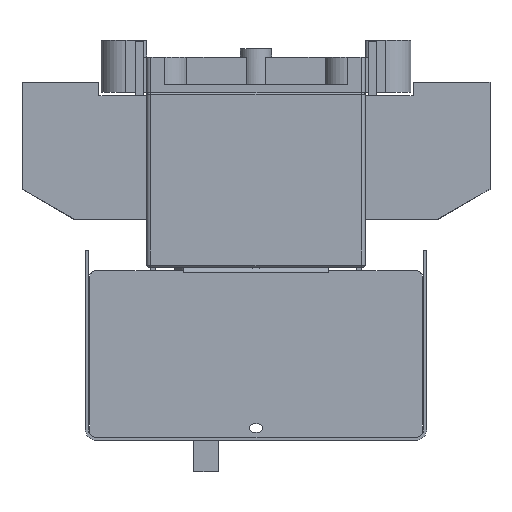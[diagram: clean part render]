
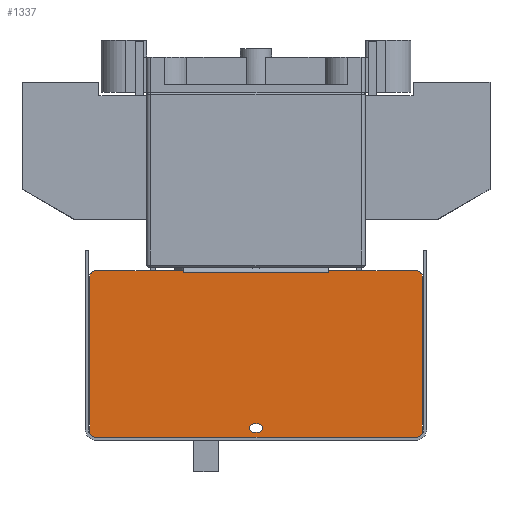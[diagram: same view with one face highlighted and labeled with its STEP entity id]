
A CAD part, left-side view. The second image highlights one B-rep face of the part: STEP entity #1337.
In plain terms, the highlighted planar face has unit normal (-1, 0, 0).
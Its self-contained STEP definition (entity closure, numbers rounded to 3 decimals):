
#170=FACE_BOUND('',#4713,.T.);
#171=FACE_BOUND('',#4714,.T.);
#1337=ADVANCED_FACE('',(#170,#171),#2371,.T.);
#2371=PLANE('',#25132);
#4713=EDGE_LOOP('',(#9675,#9676,#9677,#9678,#9679,#9680,#9681,#9682,#9683,
#9684,#9685,#9686,#9687,#9688));
#4714=EDGE_LOOP('',(#9689,#9690,#9691,#9692));
#5859=CIRCLE('',#25110,2.1);
#5861=CIRCLE('',#25114,2.1);
#5863=CIRCLE('',#25118,3.);
#5865=CIRCLE('',#25121,3.);
#5867=CIRCLE('',#25125,3.);
#5869=CIRCLE('',#25129,3.);
#9675=ORIENTED_EDGE('',*,*,#17131,.F.);
#9676=ORIENTED_EDGE('',*,*,#17132,.T.);
#9677=ORIENTED_EDGE('',*,*,#17133,.T.);
#9678=ORIENTED_EDGE('',*,*,#17134,.T.);
#9679=ORIENTED_EDGE('',*,*,#17135,.F.);
#9680=ORIENTED_EDGE('',*,*,#17123,.T.);
#9681=ORIENTED_EDGE('',*,*,#17128,.T.);
#9682=ORIENTED_EDGE('',*,*,#17111,.T.);
#9683=ORIENTED_EDGE('',*,*,#17114,.T.);
#9684=ORIENTED_EDGE('',*,*,#17089,.T.);
#9685=ORIENTED_EDGE('',*,*,#17117,.T.);
#9686=ORIENTED_EDGE('',*,*,#17120,.T.);
#9687=ORIENTED_EDGE('',*,*,#17122,.T.);
#9688=ORIENTED_EDGE('',*,*,#17097,.T.);
#9689=ORIENTED_EDGE('',*,*,#17101,.T.);
#9690=ORIENTED_EDGE('',*,*,#17105,.T.);
#9691=ORIENTED_EDGE('',*,*,#17108,.T.);
#9692=ORIENTED_EDGE('',*,*,#17130,.T.);
#13910=VERTEX_POINT('',#35117);
#13955=VERTEX_POINT('',#35214);
#14239=VERTEX_POINT('',#36305);
#14240=VERTEX_POINT('',#36307);
#14243=VERTEX_POINT('',#36314);
#14244=VERTEX_POINT('',#36316);
#14246=VERTEX_POINT('',#36322);
#14248=VERTEX_POINT('',#36328);
#14251=VERTEX_POINT('',#36335);
#14252=VERTEX_POINT('',#36337);
#14254=VERTEX_POINT('',#36346);
#14256=VERTEX_POINT('',#36352);
#14257=VERTEX_POINT('',#36359);
#14258=VERTEX_POINT('',#36360);
#14261=VERTEX_POINT('',#36374);
#14262=VERTEX_POINT('',#36376);
#14263=VERTEX_POINT('',#36378);
#14264=VERTEX_POINT('',#36380);
#17089=EDGE_CURVE('',#13910,#13955,#20105,.T.);
#17097=EDGE_CURVE('',#14240,#14239,#20112,.T.);
#17101=EDGE_CURVE('',#14244,#14243,#5859,.T.);
#17105=EDGE_CURVE('',#14243,#14246,#20118,.T.);
#17108=EDGE_CURVE('',#14246,#14248,#5861,.T.);
#17111=EDGE_CURVE('',#14252,#14251,#20122,.T.);
#17114=EDGE_CURVE('',#14251,#13910,#5863,.T.);
#17117=EDGE_CURVE('',#13955,#14254,#5865,.T.);
#17120=EDGE_CURVE('',#14254,#14256,#20127,.T.);
#17122=EDGE_CURVE('',#14256,#14240,#5867,.T.);
#17123=EDGE_CURVE('',#14257,#14258,#20128,.T.);
#17128=EDGE_CURVE('',#14258,#14252,#5869,.T.);
#17130=EDGE_CURVE('',#14248,#14244,#20133,.T.);
#17131=EDGE_CURVE('',#14261,#14239,#20134,.T.);
#17132=EDGE_CURVE('',#14261,#14262,#20135,.T.);
#17133=EDGE_CURVE('',#14262,#14263,#20136,.T.);
#17134=EDGE_CURVE('',#14263,#14264,#20137,.T.);
#17135=EDGE_CURVE('',#14257,#14264,#20138,.T.);
#20105=LINE('',#36288,#22745);
#20112=LINE('',#36306,#22752);
#20118=LINE('',#36323,#22758);
#20122=LINE('',#36336,#22762);
#20127=LINE('',#36353,#22767);
#20128=LINE('',#36358,#22768);
#20133=LINE('',#36371,#22773);
#20134=LINE('',#36373,#22774);
#20135=LINE('',#36375,#22775);
#20136=LINE('',#36377,#22776);
#20137=LINE('',#36379,#22777);
#20138=LINE('',#36381,#22778);
#22745=VECTOR('',#29465,1.);
#22752=VECTOR('',#29478,1.);
#22758=VECTOR('',#29492,1.);
#22762=VECTOR('',#29504,1.);
#22767=VECTOR('',#29523,1.);
#22768=VECTOR('',#29532,1.);
#22773=VECTOR('',#29545,1.);
#22774=VECTOR('',#29548,1.);
#22775=VECTOR('',#29549,1.);
#22776=VECTOR('',#29550,1.);
#22777=VECTOR('',#29551,1.);
#22778=VECTOR('',#29552,1.);
#25110=AXIS2_PLACEMENT_3D('',#36315,#29485,#29486);
#25114=AXIS2_PLACEMENT_3D('',#36329,#29498,#29499);
#25118=AXIS2_PLACEMENT_3D('',#36341,#29510,#29511);
#25121=AXIS2_PLACEMENT_3D('',#36347,#29517,#29518);
#25125=AXIS2_PLACEMENT_3D('',#36356,#29528,#29529);
#25129=AXIS2_PLACEMENT_3D('',#36368,#29540,#29541);
#25132=AXIS2_PLACEMENT_3D('',#36382,#29553,#29554);
#29465=DIRECTION('',(0.,-1.,0.));
#29478=DIRECTION('',(0.,1.,0.));
#29485=DIRECTION('',(1.,0.,0.));
#29486=DIRECTION('',(0.,1.,0.));
#29492=DIRECTION('',(0.,-1.,0.));
#29498=DIRECTION('',(1.,0.,0.));
#29499=DIRECTION('',(0.,1.,0.));
#29504=DIRECTION('',(0.,0.,-1.));
#29510=DIRECTION('',(-1.,0.,0.));
#29511=DIRECTION('',(0.,1.,0.));
#29517=DIRECTION('',(-1.,0.,0.));
#29518=DIRECTION('',(0.,1.,0.));
#29523=DIRECTION('',(0.,0.,1.));
#29528=DIRECTION('',(-1.,0.,0.));
#29529=DIRECTION('',(0.,1.,0.));
#29532=DIRECTION('',(0.,1.,0.));
#29540=DIRECTION('',(-1.,0.,0.));
#29541=DIRECTION('',(0.,1.,0.));
#29545=DIRECTION('',(0.,1.,0.));
#29548=DIRECTION('',(0.,0.,1.));
#29549=DIRECTION('',(0.,1.,0.));
#29550=DIRECTION('',(0.,1.,0.));
#29551=DIRECTION('',(0.,1.,0.));
#29552=DIRECTION('',(0.,0.,-1.));
#29553=DIRECTION('',(-1.,0.,0.));
#29554=DIRECTION('',(0.,-1.,0.));
#35117=CARTESIAN_POINT('',(-189.3,77.,-165.8));
#35214=CARTESIAN_POINT('',(-189.3,-77.,-165.8));
#36288=CARTESIAN_POINT('',(-189.3,77.,-165.8));
#36305=CARTESIAN_POINT('',(-189.3,-35.002,-85.8));
#36306=CARTESIAN_POINT('',(-189.3,-77.,-85.8));
#36307=CARTESIAN_POINT('',(-189.3,-77.,-85.8));
#36314=CARTESIAN_POINT('',(-189.3,1.,-159.3));
#36315=CARTESIAN_POINT('',(-189.3,1.,-161.4));
#36316=CARTESIAN_POINT('',(-189.3,1.,-163.5));
#36322=CARTESIAN_POINT('',(-189.3,-1.,-159.3));
#36323=CARTESIAN_POINT('',(-189.3,1.,-159.3));
#36328=CARTESIAN_POINT('',(-189.3,-1.,-163.5));
#36329=CARTESIAN_POINT('',(-189.3,-1.,-161.4));
#36335=CARTESIAN_POINT('',(-189.3,80.,-162.8));
#36336=CARTESIAN_POINT('',(-189.3,80.,-88.8));
#36337=CARTESIAN_POINT('',(-189.3,80.,-88.8));
#36341=CARTESIAN_POINT('',(-189.3,77.,-162.8));
#36346=CARTESIAN_POINT('',(-189.3,-80.,-162.8));
#36347=CARTESIAN_POINT('',(-189.3,-77.,-162.8));
#36352=CARTESIAN_POINT('',(-189.3,-80.,-88.8));
#36353=CARTESIAN_POINT('',(-189.3,-80.,-162.8));
#36356=CARTESIAN_POINT('',(-189.3,-77.,-88.8));
#36358=CARTESIAN_POINT('',(-189.3,-77.,-85.8));
#36359=CARTESIAN_POINT('',(-189.3,35.002,-85.8));
#36360=CARTESIAN_POINT('',(-189.3,77.,-85.8));
#36368=CARTESIAN_POINT('',(-189.3,77.,-88.8));
#36371=CARTESIAN_POINT('',(-189.3,-1.,-163.5));
#36373=CARTESIAN_POINT('',(-189.3,-35.002,-162.8));
#36374=CARTESIAN_POINT('',(-189.3,-35.002,-86.8));
#36375=CARTESIAN_POINT('',(-189.3,77.,-86.8));
#36376=CARTESIAN_POINT('',(-189.3,-35.,-86.8));
#36377=CARTESIAN_POINT('',(-189.3,50.5,-86.8));
#36378=CARTESIAN_POINT('',(-189.3,35.,-86.8));
#36379=CARTESIAN_POINT('',(-189.3,77.,-86.8));
#36380=CARTESIAN_POINT('',(-189.3,35.002,-86.8));
#36381=CARTESIAN_POINT('',(-189.3,35.002,-162.8));
#36382=CARTESIAN_POINT('',(-189.3,77.,-162.8));
